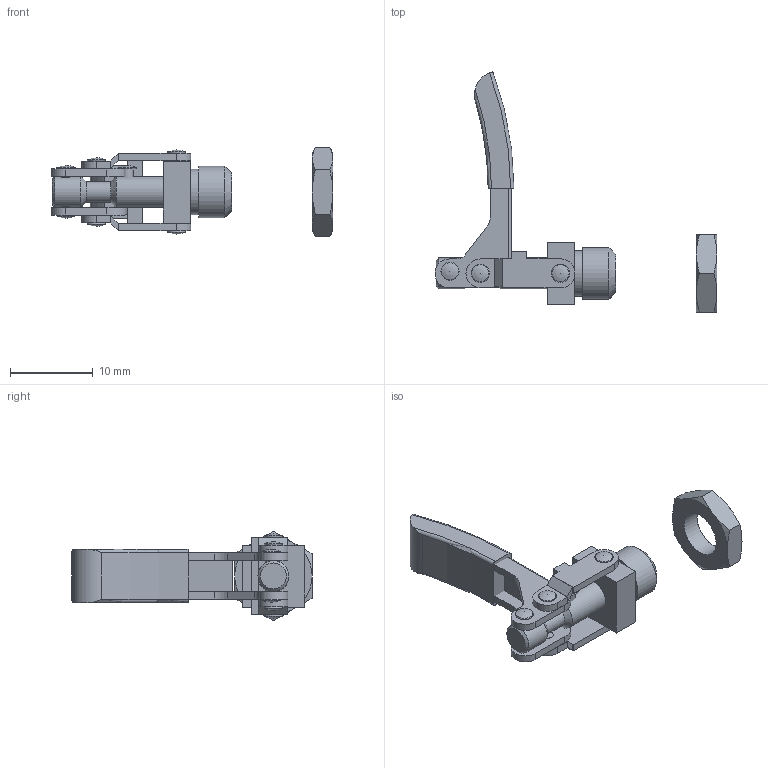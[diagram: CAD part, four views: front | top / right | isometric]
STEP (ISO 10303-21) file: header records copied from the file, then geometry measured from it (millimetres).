
FILE_DESCRIPTION((' '),'2;1');
FILE_NAME('C:\Users\Nick\Desktop\PHL Sereis\PHL-253\3D\phl-253 Open.stp','2015-07-24T14:37:33',(' '),(' '),' ','ACIS',' ');
FILE_SCHEMA(('CONFIG_CONTROL_DESIGN'));
Length unit declared in the file: inch
Products named in the file (19): C:\Users\Nick\Desktop\PHL Sereis\PHL-253\3D\phl-253 Open.stp; Body1; Body2; Body3; Body4; Body5; Body6; Body7; Body8; Body9; Body10; Body11; Body12; Body13; Body14; Body15; Body16; Body17; Body18
Assembly tree (18 placements, depth 2):
  C:\Users\Nick\Desktop\PHL Sereis\PHL-253\3D\phl-253 Open.stp
    Body1
    Body2
    Body3
    Body4
    Body5
    Body6
    Body7
    Body8
    Body9
    Body10
    Body11
    Body12
    Body13
    Body14
    Body15
    Body16
    Body17
    Body18
Bounding box: 34.15 x 29.1 x 10.83 mm (x, y, z)
Volume: 1151.5 mm3; surface area: 2290.2 mm2
Topology: 18 solids, 18 shells, 178 faces, 401 edges, 259 vertices
Faces by surface type: plane 90, cylinder 49, cone 19, torus 13, sphere 7
Full cylindrical faces by diameter (mm): 1.34 x2, 1.39 x4, 1.42 x7, 1.44 x4, 1.47 x1, 2.01 x1, 2.5 x1, 3.75 x2, 3.76 x2, 5.5 x1, 5.517 x1, 6.25 x1
Entity records: 7501 total; most frequent: CARTESIAN_POINT 1040, DIRECTION 863, ORIENTED_EDGE 666, AXIS2_PLACEMENT_3D 351, EDGE_CURVE 333, EDGE_LOOP 255, VERTEX_POINT 240, PERSON 188
